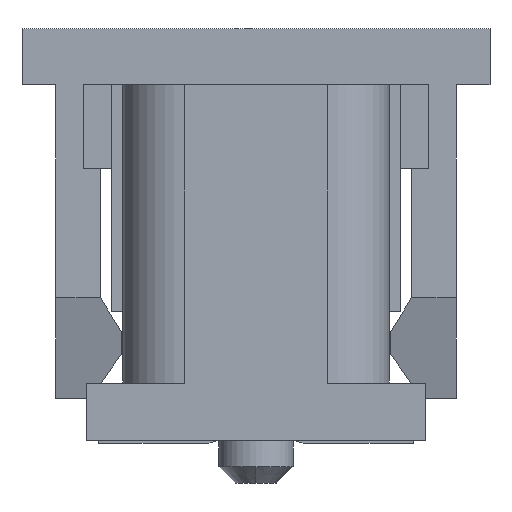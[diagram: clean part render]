
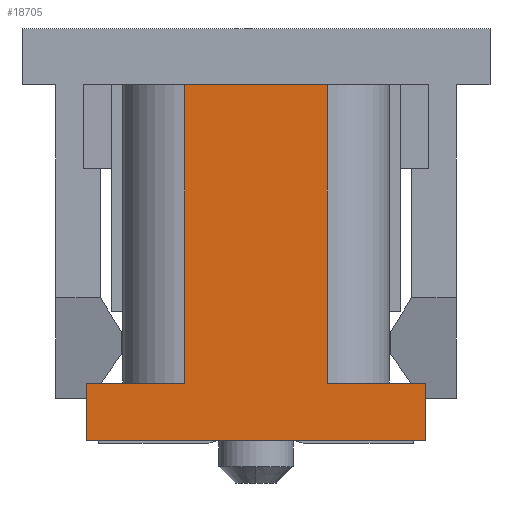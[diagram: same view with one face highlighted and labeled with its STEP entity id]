
A CAD part, left-side view. The second image highlights one B-rep face of the part: STEP entity #18705.
In plain terms, the highlighted planar face has unit normal (-1, 0, 0).
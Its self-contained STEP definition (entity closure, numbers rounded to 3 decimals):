
#1401 = EDGE_CURVE ( 'NONE', #4011, #3788, #2952, .T. ) ;
#1421 = EDGE_CURVE ( 'NONE', #4011, #3894, #3026, .T. ) ;
#1444 = EDGE_CURVE ( 'NONE', #3894, #3928, #3094, .T. ) ;
#1451 = EDGE_CURVE ( 'NONE', #3935, #22740, #18108, .T. ) ;
#1462 = EDGE_CURVE ( 'NONE', #22740, #3960, #18140, .T. ) ;
#1465 = EDGE_CURVE ( 'NONE', #3928, #3994, #18144, .T. ) ;
#1473 = EDGE_CURVE ( 'NONE', #3994, #3935, #18163, .T. ) ;
#1496 = EDGE_CURVE ( 'NONE', #3960, #3788, #18247, .T. ) ;
#2355 = AXIS2_PLACEMENT_3D ( 'NONE', #13388, #13394, #13395 ) ;
#2952 = LINE ( 'NONE', #2965, #6696 ) ;
#2965 = CARTESIAN_POINT ( 'NONE',  ( -17.95, 0., -0.744 ) ) ;
#2967 = DIRECTION ( 'NONE',  ( 0., -1., 0. ) ) ;
#3026 = LINE ( 'NONE', #3027, #6931 ) ;
#3027 = CARTESIAN_POINT ( 'NONE',  ( -17.95, 3.025, 2.433 ) ) ;
#3028 = DIRECTION ( 'NONE',  ( 0., 0., 1. ) ) ;
#3094 = LINE ( 'NONE', #3096, #6662 ) ;
#3096 = CARTESIAN_POINT ( 'NONE',  ( -17.95, 0., 0.276 ) ) ;
#3107 = DIRECTION ( 'NONE',  ( 0., -1., 0. ) ) ;
#3788 = VERTEX_POINT ( 'NONE', #13992 ) ;
#3894 = VERTEX_POINT ( 'NONE', #14098 ) ;
#3928 = VERTEX_POINT ( 'NONE', #14132 ) ;
#3935 = VERTEX_POINT ( 'NONE', #14139 ) ;
#3960 = VERTEX_POINT ( 'NONE', #14164 ) ;
#3994 = VERTEX_POINT ( 'NONE', #14198 ) ;
#4011 = VERTEX_POINT ( 'NONE', #14215 ) ;
#6662 = VECTOR ( 'NONE', #3107, 1000. ) ;
#6696 = VECTOR ( 'NONE', #2967, 1000. ) ;
#6805 = VECTOR ( 'NONE', #18176, 1000. ) ;
#6809 = VECTOR ( 'NONE', #18153, 1000. ) ;
#6890 = VECTOR ( 'NONE', #18110, 1000. ) ;
#6926 = VECTOR ( 'NONE', #18142, 1000. ) ;
#6931 = VECTOR ( 'NONE', #3028, 1000. ) ;
#6984 = VECTOR ( 'NONE', #18249, 1000. ) ;
#9234 = CARTESIAN_POINT ( 'NONE',  ( -17.95, -1.275, 0.276 ) ) ;
#13386 = PLANE ( 'NONE',  #2355 ) ;
#13388 = CARTESIAN_POINT ( 'NONE',  ( -17.95, -3.025, 5.61 ) ) ;
#13392 = FACE_OUTER_BOUND ( 'NONE', #23198, .T. ) ;
#13394 = DIRECTION ( 'NONE',  ( 1., 0., 0. ) ) ;
#13395 = DIRECTION ( 'NONE',  ( 0., 0., -1. ) ) ;
#13992 = CARTESIAN_POINT ( 'NONE',  ( -17.95, -3.025, -0.744 ) ) ;
#14098 = CARTESIAN_POINT ( 'NONE',  ( -17.95, 3.025, 0.276 ) ) ;
#14132 = CARTESIAN_POINT ( 'NONE',  ( -17.95, 1.275, 0.276 ) ) ;
#14139 = CARTESIAN_POINT ( 'NONE',  ( -17.95, -1.275, 5.61 ) ) ;
#14164 = CARTESIAN_POINT ( 'NONE',  ( -17.95, -3.025, 0.276 ) ) ;
#14198 = CARTESIAN_POINT ( 'NONE',  ( -17.95, 1.275, 5.61 ) ) ;
#14215 = CARTESIAN_POINT ( 'NONE',  ( -17.95, 3.025, -0.744 ) ) ;
#18108 = LINE ( 'NONE', #18109, #6890 ) ;
#18109 = CARTESIAN_POINT ( 'NONE',  ( -17.95, -1.275, 2.433 ) ) ;
#18110 = DIRECTION ( 'NONE',  ( 0., 0., -1. ) ) ;
#18136 = CARTESIAN_POINT ( 'NONE',  ( -17.95, 1.275, 2.433 ) ) ;
#18140 = LINE ( 'NONE', #18141, #6926 ) ;
#18141 = CARTESIAN_POINT ( 'NONE',  ( -17.95, 0., 0.276 ) ) ;
#18142 = DIRECTION ( 'NONE',  ( 0., -1., 0. ) ) ;
#18144 = LINE ( 'NONE', #18136, #6809 ) ;
#18153 = DIRECTION ( 'NONE',  ( 0., 0., 1. ) ) ;
#18163 = LINE ( 'NONE', #18175, #6805 ) ;
#18175 = CARTESIAN_POINT ( 'NONE',  ( -17.95, 0., 5.61 ) ) ;
#18176 = DIRECTION ( 'NONE',  ( 0., -1., 0. ) ) ;
#18247 = LINE ( 'NONE', #18248, #6984 ) ;
#18248 = CARTESIAN_POINT ( 'NONE',  ( -17.95, -3.025, 2.433 ) ) ;
#18249 = DIRECTION ( 'NONE',  ( 0., 0., -1. ) ) ;
#18705 = ADVANCED_FACE ( 'NONE', ( #13392 ), #13386, .F. ) ;
#20403 = ORIENTED_EDGE ( 'NONE', *, *, #1462, .F. ) ;
#20404 = ORIENTED_EDGE ( 'NONE', *, *, #1451, .F. ) ;
#20406 = ORIENTED_EDGE ( 'NONE', *, *, #1473, .F. ) ;
#20407 = ORIENTED_EDGE ( 'NONE', *, *, #1465, .F. ) ;
#20409 = ORIENTED_EDGE ( 'NONE', *, *, #1444, .F. ) ;
#20410 = ORIENTED_EDGE ( 'NONE', *, *, #1421, .F. ) ;
#20412 = ORIENTED_EDGE ( 'NONE', *, *, #1401, .T. ) ;
#20413 = ORIENTED_EDGE ( 'NONE', *, *, #1496, .F. ) ;
#22740 = VERTEX_POINT ( 'NONE', #9234 ) ;
#23198 = EDGE_LOOP ( 'NONE', ( #20403, #20404, #20406, #20407, #20409, #20410, #20412, #20413 ) ) ;
